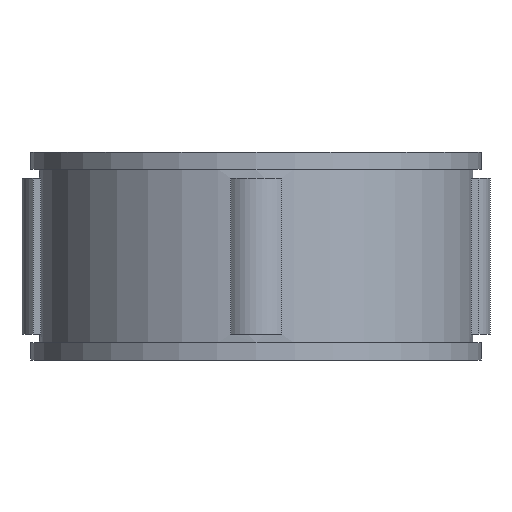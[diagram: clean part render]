
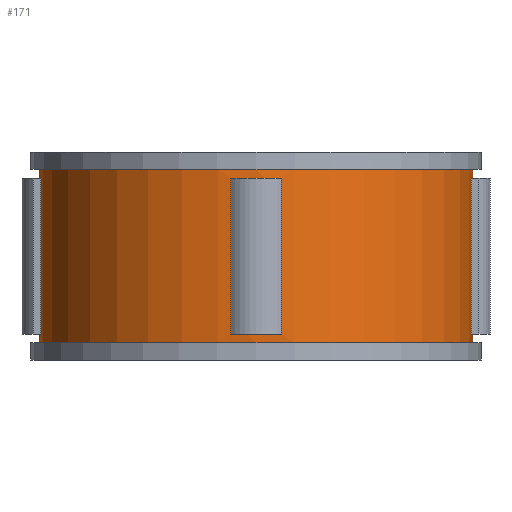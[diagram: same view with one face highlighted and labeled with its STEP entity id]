
A CAD part, front view. The second image highlights one B-rep face of the part: STEP entity #171.
In plain terms, the highlighted cylindrical face has radius 12.5 mm (diameter 25 mm), a full revolution.
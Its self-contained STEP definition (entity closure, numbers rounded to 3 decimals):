
#171=ADVANCED_FACE('',(#359,#360,#361,#362,#363,#364),#219,.T.);
#219=CYLINDRICAL_SURFACE('',#882,12.5);
#231=LINE('',#1207,#295);
#232=LINE('',#1212,#296);
#233=LINE('',#1215,#297);
#234=LINE('',#1220,#298);
#235=LINE('',#1223,#299);
#236=LINE('',#1228,#300);
#237=LINE('',#1234,#301);
#238=LINE('',#1238,#302);
#295=VECTOR('',#966,1.);
#296=VECTOR('',#969,1.);
#297=VECTOR('',#972,1.);
#298=VECTOR('',#975,1.);
#299=VECTOR('',#978,1.);
#300=VECTOR('',#981,1.);
#301=VECTOR('',#986,1.);
#302=VECTOR('',#989,1.);
#359=FACE_BOUND('',#383,.T.);
#360=FACE_BOUND('',#384,.T.);
#361=FACE_BOUND('',#385,.T.);
#362=FACE_BOUND('',#386,.T.);
#363=FACE_BOUND('',#387,.T.);
#364=FACE_BOUND('',#388,.T.);
#383=EDGE_LOOP('',(#447));
#384=EDGE_LOOP('',(#448));
#385=EDGE_LOOP('',(#449,#450,#451,#452));
#386=EDGE_LOOP('',(#453,#454,#455,#456));
#387=EDGE_LOOP('',(#457,#458,#459,#460));
#388=EDGE_LOOP('',(#461,#462,#463,#464));
#447=ORIENTED_EDGE('',*,*,#727,.F.);
#448=ORIENTED_EDGE('',*,*,#728,.T.);
#449=ORIENTED_EDGE('',*,*,#729,.F.);
#450=ORIENTED_EDGE('',*,*,#730,.T.);
#451=ORIENTED_EDGE('',*,*,#731,.F.);
#452=ORIENTED_EDGE('',*,*,#732,.F.);
#453=ORIENTED_EDGE('',*,*,#733,.F.);
#454=ORIENTED_EDGE('',*,*,#734,.T.);
#455=ORIENTED_EDGE('',*,*,#735,.F.);
#456=ORIENTED_EDGE('',*,*,#736,.F.);
#457=ORIENTED_EDGE('',*,*,#737,.F.);
#458=ORIENTED_EDGE('',*,*,#738,.T.);
#459=ORIENTED_EDGE('',*,*,#739,.F.);
#460=ORIENTED_EDGE('',*,*,#740,.F.);
#461=ORIENTED_EDGE('',*,*,#741,.F.);
#462=ORIENTED_EDGE('',*,*,#742,.T.);
#463=ORIENTED_EDGE('',*,*,#743,.T.);
#464=ORIENTED_EDGE('',*,*,#744,.T.);
#655=VERTEX_POINT('',#1204);
#656=VERTEX_POINT('',#1206);
#657=VERTEX_POINT('',#1208);
#658=VERTEX_POINT('',#1209);
#659=VERTEX_POINT('',#1211);
#660=VERTEX_POINT('',#1213);
#661=VERTEX_POINT('',#1216);
#662=VERTEX_POINT('',#1217);
#663=VERTEX_POINT('',#1219);
#664=VERTEX_POINT('',#1221);
#665=VERTEX_POINT('',#1224);
#666=VERTEX_POINT('',#1225);
#667=VERTEX_POINT('',#1227);
#668=VERTEX_POINT('',#1229);
#669=VERTEX_POINT('',#1232);
#670=VERTEX_POINT('',#1233);
#671=VERTEX_POINT('',#1235);
#672=VERTEX_POINT('',#1237);
#727=EDGE_CURVE('',#655,#655,#831,.T.);
#728=EDGE_CURVE('',#656,#656,#832,.T.);
#729=EDGE_CURVE('',#657,#658,#231,.T.);
#730=EDGE_CURVE('',#657,#659,#833,.T.);
#731=EDGE_CURVE('',#660,#659,#232,.T.);
#732=EDGE_CURVE('',#658,#660,#834,.T.);
#733=EDGE_CURVE('',#661,#662,#233,.T.);
#734=EDGE_CURVE('',#661,#663,#835,.T.);
#735=EDGE_CURVE('',#664,#663,#234,.T.);
#736=EDGE_CURVE('',#662,#664,#836,.T.);
#737=EDGE_CURVE('',#665,#666,#235,.T.);
#738=EDGE_CURVE('',#665,#667,#837,.T.);
#739=EDGE_CURVE('',#668,#667,#236,.T.);
#740=EDGE_CURVE('',#666,#668,#838,.T.);
#741=EDGE_CURVE('',#669,#670,#839,.T.);
#742=EDGE_CURVE('',#669,#671,#237,.T.);
#743=EDGE_CURVE('',#671,#672,#840,.T.);
#744=EDGE_CURVE('',#672,#670,#238,.T.);
#831=CIRCLE('',#872,12.5);
#832=CIRCLE('',#873,12.5);
#833=CIRCLE('',#874,12.5);
#834=CIRCLE('',#875,12.5);
#835=CIRCLE('',#876,12.5);
#836=CIRCLE('',#877,12.5);
#837=CIRCLE('',#878,12.5);
#838=CIRCLE('',#879,12.5);
#839=CIRCLE('',#880,12.5);
#840=CIRCLE('',#881,12.5);
#872=AXIS2_PLACEMENT_3D('',#1203,#962,#963);
#873=AXIS2_PLACEMENT_3D('',#1205,#964,#965);
#874=AXIS2_PLACEMENT_3D('',#1210,#967,#968);
#875=AXIS2_PLACEMENT_3D('',#1214,#970,#971);
#876=AXIS2_PLACEMENT_3D('',#1218,#973,#974);
#877=AXIS2_PLACEMENT_3D('',#1222,#976,#977);
#878=AXIS2_PLACEMENT_3D('',#1226,#979,#980);
#879=AXIS2_PLACEMENT_3D('',#1230,#982,#983);
#880=AXIS2_PLACEMENT_3D('',#1231,#984,#985);
#881=AXIS2_PLACEMENT_3D('',#1236,#987,#988);
#882=AXIS2_PLACEMENT_3D('',#1239,#990,#991);
#962=DIRECTION('',(0.,0.,1.));
#963=DIRECTION('',(1.,0.,0.));
#964=DIRECTION('',(0.,0.,1.));
#965=DIRECTION('',(1.,0.,0.));
#966=DIRECTION('',(0.,0.,-1.));
#967=DIRECTION('',(0.,0.,1.));
#968=DIRECTION('',(1.,0.,0.));
#969=DIRECTION('',(0.,0.,1.));
#970=DIRECTION('',(0.,0.,1.));
#971=DIRECTION('',(1.,0.,0.));
#972=DIRECTION('',(0.,0.,-1.));
#973=DIRECTION('',(0.,0.,1.));
#974=DIRECTION('',(1.,0.,0.));
#975=DIRECTION('',(0.,0.,1.));
#976=DIRECTION('',(0.,0.,1.));
#977=DIRECTION('',(1.,0.,0.));
#978=DIRECTION('',(0.,0.,-1.));
#979=DIRECTION('',(0.,0.,1.));
#980=DIRECTION('',(1.,0.,0.));
#981=DIRECTION('',(0.,0.,1.));
#982=DIRECTION('',(0.,0.,1.));
#983=DIRECTION('',(1.,0.,0.));
#984=DIRECTION('',(0.,0.,-1.));
#985=DIRECTION('',(-1.,0.,0.));
#986=DIRECTION('',(0.,0.,-1.));
#987=DIRECTION('',(0.,0.,-1.));
#988=DIRECTION('',(-1.,0.,0.));
#989=DIRECTION('',(0.,0.,1.));
#990=DIRECTION('',(0.,0.,-1.));
#991=DIRECTION('',(-1.,0.,0.));
#1203=CARTESIAN_POINT('',(0.,0.,11.));
#1204=CARTESIAN_POINT('',(12.5,0.,11.));
#1205=CARTESIAN_POINT('',(0.,0.,1.));
#1206=CARTESIAN_POINT('',(12.5,0.,1.));
#1207=CARTESIAN_POINT('',(12.413,-1.471,12.));
#1208=CARTESIAN_POINT('',(12.413,-1.471,10.5));
#1209=CARTESIAN_POINT('',(12.413,-1.471,1.5));
#1210=CARTESIAN_POINT('',(0.,0.,10.5));
#1211=CARTESIAN_POINT('',(12.413,1.471,10.5));
#1212=CARTESIAN_POINT('',(12.413,1.471,12.));
#1213=CARTESIAN_POINT('',(12.413,1.471,1.5));
#1214=CARTESIAN_POINT('',(0.,0.,1.5));
#1215=CARTESIAN_POINT('',(1.471,12.413,12.));
#1216=CARTESIAN_POINT('',(1.471,12.413,10.5));
#1217=CARTESIAN_POINT('',(1.471,12.413,1.5));
#1218=CARTESIAN_POINT('',(0.,0.,10.5));
#1219=CARTESIAN_POINT('',(-1.471,12.413,10.5));
#1220=CARTESIAN_POINT('',(-1.471,12.413,12.));
#1221=CARTESIAN_POINT('',(-1.471,12.413,1.5));
#1222=CARTESIAN_POINT('',(0.,0.,1.5));
#1223=CARTESIAN_POINT('',(-12.413,1.471,12.));
#1224=CARTESIAN_POINT('',(-12.413,1.471,10.5));
#1225=CARTESIAN_POINT('',(-12.413,1.471,1.5));
#1226=CARTESIAN_POINT('',(0.,0.,10.5));
#1227=CARTESIAN_POINT('',(-12.413,-1.471,10.5));
#1228=CARTESIAN_POINT('',(-12.413,-1.471,12.));
#1229=CARTESIAN_POINT('',(-12.413,-1.471,1.5));
#1230=CARTESIAN_POINT('',(0.,0.,1.5));
#1231=CARTESIAN_POINT('',(0.,0.,10.5));
#1232=CARTESIAN_POINT('',(1.471,-12.413,10.5));
#1233=CARTESIAN_POINT('',(-1.471,-12.413,10.5));
#1234=CARTESIAN_POINT('',(1.471,-12.413,12.));
#1235=CARTESIAN_POINT('',(1.471,-12.413,1.5));
#1236=CARTESIAN_POINT('',(0.,0.,1.5));
#1237=CARTESIAN_POINT('',(-1.471,-12.413,1.5));
#1238=CARTESIAN_POINT('',(-1.471,-12.413,12.));
#1239=CARTESIAN_POINT('',(0.,0.,12.));
